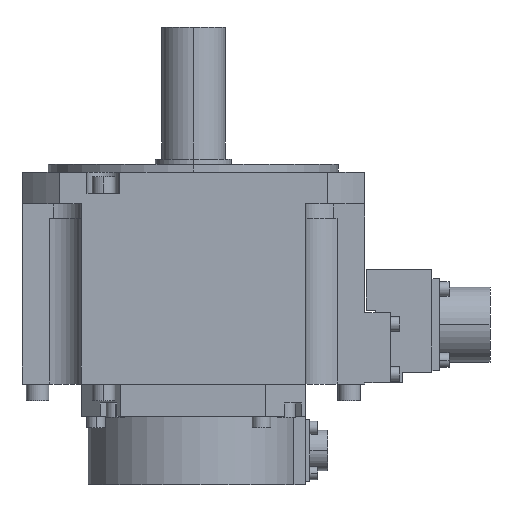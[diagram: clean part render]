
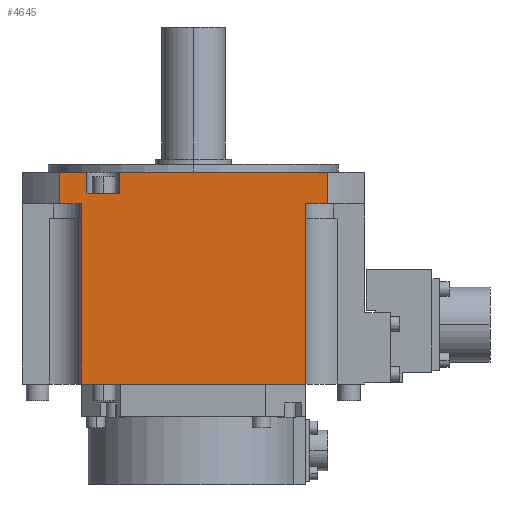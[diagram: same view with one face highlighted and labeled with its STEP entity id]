
A CAD part, left-side view. The second image highlights one B-rep face of the part: STEP entity #4645.
In plain terms, the highlighted planar face has unit normal (-1, 0, 0).
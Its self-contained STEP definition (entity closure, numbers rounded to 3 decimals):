
#616=DIRECTION('',(0.,-1.,0.));
#617=VECTOR('',#616,85.);
#618=CARTESIAN_POINT('',(-65.,42.5,-80.3));
#619=LINE('',#618,#617);
#708=DIRECTION('',(0.,0.,-1.));
#709=VECTOR('',#708,68.3);
#710=CARTESIAN_POINT('',(-65.,42.5,-12.));
#711=LINE('',#710,#709);
#764=DIRECTION('',(0.,-1.,0.));
#765=VECTOR('',#764,8.306);
#766=CARTESIAN_POINT('',(-65.,50.806,-12.));
#767=LINE('',#766,#765);
#879=DIRECTION('',(0.,0.,-1.));
#880=VECTOR('',#879,12.);
#881=CARTESIAN_POINT('',(-65.,50.806,0.));
#882=LINE('',#881,#880);
#883=DIRECTION('',(0.,-1.,0.));
#884=VECTOR('',#883,78.656);
#885=CARTESIAN_POINT('',(-65.,27.85,0.));
#886=LINE('',#885,#884);
#887=DIRECTION('',(0.,0.,-1.));
#888=VECTOR('',#887,12.);
#889=CARTESIAN_POINT('',(-65.,-50.806,0.));
#890=LINE('',#889,#888);
#891=DIRECTION('',(0.,1.,0.));
#892=VECTOR('',#891,8.306);
#893=CARTESIAN_POINT('',(-65.,-50.806,-12.));
#894=LINE('',#893,#892);
#895=DIRECTION('',(0.,-1.,0.));
#896=VECTOR('',#895,10.456);
#897=CARTESIAN_POINT('',(-65.,50.806,0.));
#898=LINE('',#897,#896);
#899=DIRECTION('',(0.,1.,0.));
#900=VECTOR('',#899,12.5);
#901=CARTESIAN_POINT('',(-65.,27.85,-8.));
#902=LINE('',#901,#900);
#926=DIRECTION('',(0.,0.,1.));
#927=VECTOR('',#926,8.);
#928=CARTESIAN_POINT('',(-65.,40.35,-8.));
#929=LINE('',#928,#927);
#938=DIRECTION('',(0.,0.,-1.));
#939=VECTOR('',#938,8.);
#940=CARTESIAN_POINT('',(-65.,27.85,0.));
#941=LINE('',#940,#939);
#1030=DIRECTION('',(0.,0.,1.));
#1031=VECTOR('',#1030,68.3);
#1032=CARTESIAN_POINT('',(-65.,-42.5,-80.3));
#1033=LINE('',#1032,#1031);
#2640=CARTESIAN_POINT('',(-65.,-50.806,0.));
#2641=VERTEX_POINT('',#2640);
#2642=CARTESIAN_POINT('',(-65.,27.85,0.));
#2643=VERTEX_POINT('',#2642);
#2648=CARTESIAN_POINT('',(-65.,40.35,0.));
#2649=VERTEX_POINT('',#2648);
#2650=CARTESIAN_POINT('',(-65.,50.806,0.));
#2651=VERTEX_POINT('',#2650);
#2778=CARTESIAN_POINT('',(-65.,-50.806,-12.));
#2779=VERTEX_POINT('',#2778);
#2780=CARTESIAN_POINT('',(-65.,27.85,-8.));
#2781=CARTESIAN_POINT('',(-65.,40.35,-8.));
#2782=VERTEX_POINT('',#2780);
#2783=VERTEX_POINT('',#2781);
#2784=CARTESIAN_POINT('',(-65.,-42.5,-12.));
#2785=VERTEX_POINT('',#2784);
#2786=CARTESIAN_POINT('',(-65.,-42.5,-80.3));
#2787=VERTEX_POINT('',#2786);
#2788=CARTESIAN_POINT('',(-65.,42.5,-12.));
#2789=CARTESIAN_POINT('',(-65.,42.5,-80.3));
#2790=VERTEX_POINT('',#2788);
#2791=VERTEX_POINT('',#2789);
#2792=CARTESIAN_POINT('',(-65.,50.806,-12.));
#2793=VERTEX_POINT('',#2792);
#4620=CARTESIAN_POINT('',(-65.,0.,-40.15));
#4621=DIRECTION('',(1.,0.,0.));
#4622=DIRECTION('',(0.,-1.,0.));
#4623=AXIS2_PLACEMENT_3D('',#4620,#4621,#4622);
#4624=PLANE('',#4623);
#4626=ORIENTED_EDGE('',*,*,#4625,.F.);
#4628=ORIENTED_EDGE('',*,*,#4627,.F.);
#4629=ORIENTED_EDGE('',*,*,#3442,.T.);
#4631=ORIENTED_EDGE('',*,*,#4630,.T.);
#4633=ORIENTED_EDGE('',*,*,#4632,.T.);
#4635=ORIENTED_EDGE('',*,*,#4634,.F.);
#4636=ORIENTED_EDGE('',*,*,#4310,.F.);
#4637=ORIENTED_EDGE('',*,*,#4396,.F.);
#4638=ORIENTED_EDGE('',*,*,#4460,.F.);
#4639=ORIENTED_EDGE('',*,*,#4615,.F.);
#4640=ORIENTED_EDGE('',*,*,#3450,.T.);
#4642=ORIENTED_EDGE('',*,*,#4641,.F.);
#4643=EDGE_LOOP('',(#4626,#4628,#4629,#4631,#4633,#4635,#4636,#4637,#4638,#4639,
#4640,#4642));
#4644=FACE_OUTER_BOUND('',#4643,.F.);
#4645=ADVANCED_FACE('',(#4644),#4624,.F.);
#3442=EDGE_CURVE('',#2643,#2641,#886,.T.);
#3450=EDGE_CURVE('',#2651,#2649,#898,.T.);
#4310=EDGE_CURVE('',#2791,#2787,#619,.T.);
#4396=EDGE_CURVE('',#2790,#2791,#711,.T.);
#4460=EDGE_CURVE('',#2793,#2790,#767,.T.);
#4615=EDGE_CURVE('',#2651,#2793,#882,.T.);
#4625=EDGE_CURVE('',#2782,#2783,#902,.T.);
#4627=EDGE_CURVE('',#2643,#2782,#941,.T.);
#4630=EDGE_CURVE('',#2641,#2779,#890,.T.);
#4632=EDGE_CURVE('',#2779,#2785,#894,.T.);
#4634=EDGE_CURVE('',#2787,#2785,#1033,.T.);
#4641=EDGE_CURVE('',#2783,#2649,#929,.T.);
